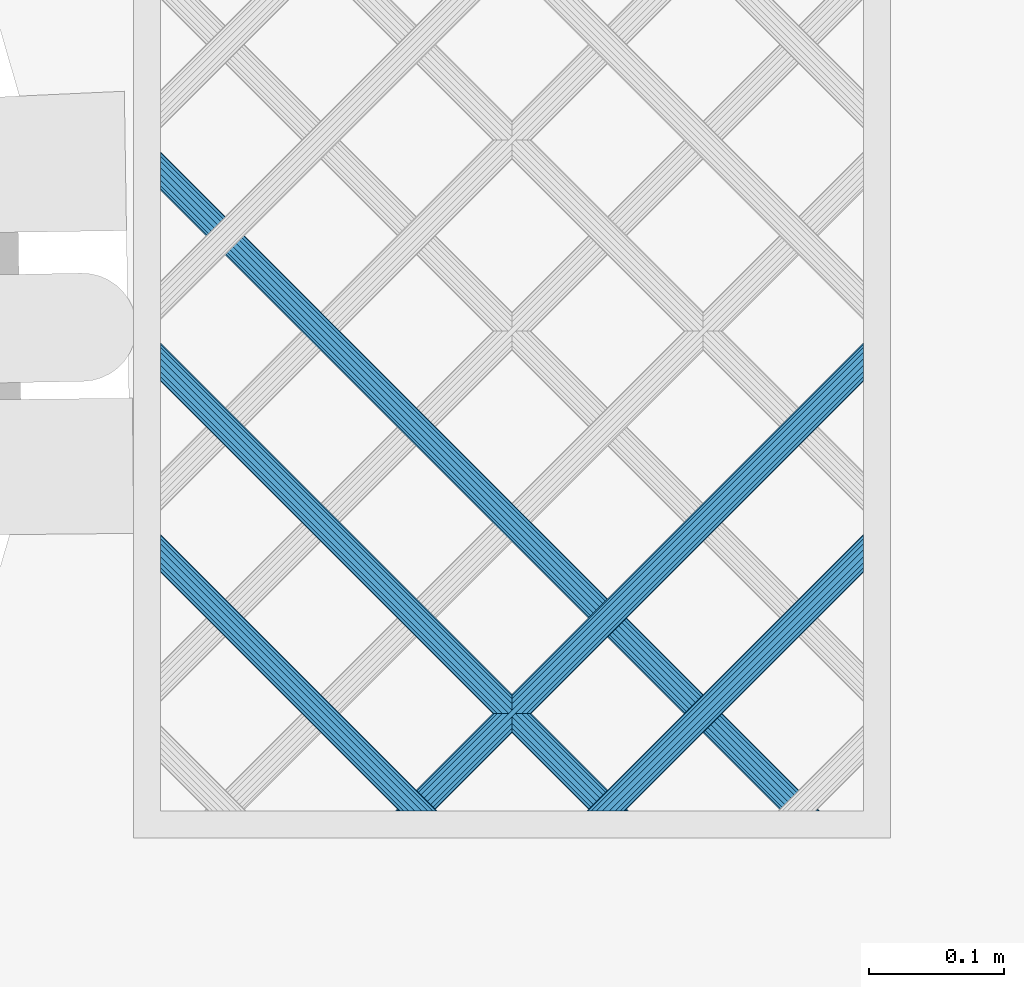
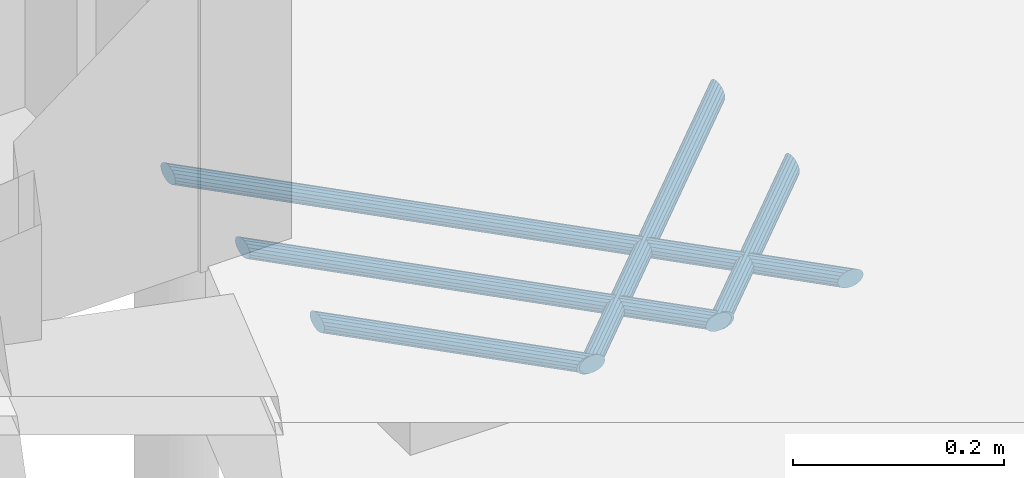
# One storey, part 45 of 133: 5 members, 1 element without a shape of its own.
"""IFC2X3 building model written with IfcOpenShell, lengths in centimetres."""

from ifc_helpers import new_model, entity, si_unit, converted_unit, direction, frame, origin, origin_with_axes, place, context, subcontext, project, spatial, faceted_brep, material, type_object, element, aggregate, save


model = new_model("IFC2X3")

# Units and contexts
model_context = context("Model", 3, precision=0.0001, world=origin(), true_north=direction((0.225632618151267, 0.974212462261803, 0.0)))
body_context = subcontext(model_context, "Body", "Model", "MODEL_VIEW")
ifc_project = project(units=[si_unit("LENGTHUNIT", "METRE", prefix="CENTI"), si_unit("AREAUNIT", "SQUARE_METRE", prefix="CENTI"), si_unit("VOLUMEUNIT", "CUBIC_METRE", prefix="CENTI"), converted_unit("PLANEANGLEUNIT", "DEGREE", entity("IfcRatioMeasure", 0.0174532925), si_unit("PLANEANGLEUNIT", "RADIAN"), dimensions=[0, 0, 0, 0, 0, 0, 0])], contexts=[model_context])

# Site, building, storey
site_placement = place(None, origin_with_axes())
site = spatial("IfcSite", under=ifc_project, at=site_placement, Name="Default Site", CompositionType="ELEMENT")
building_placement = place(site_placement, origin_with_axes())
building = spatial("IfcBuilding", under=site, at=building_placement, Name="Default Building", CompositionType="ELEMENT")
storey_placement = place(building_placement, frame((0.0, 0.0, -291.400371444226), z_axis=(0.0, 0.0, 1.0), x_axis=(1.0, 0.0, 0.0)))
storey = spatial("IfcBuildingStorey", under=building, at=storey_placement, Name="Rez-de-Jardin", CompositionType="ELEMENT", Elevation=-291.400371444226)

# Assembly, members
building_element_proxy_type = type_object("IfcBuildingElementProxyType", Name="Type Object", PredefinedType="NOTDEFINED")
assembly_placement = place(storey_placement, frame((1661.43547545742, -586.48555921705, 97.0), z_axis=(0.0, 1.0, -2.38697950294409e-15), x_axis=(1.0, 0.0, 0.0)))
assembly = element("IfcElementAssembly", 1, at=assembly_placement, inside=storey, type_object=building_element_proxy_type, Name="Panneau 294972", ObjectType="Precast panel", PredefinedType="USERDEFINED")
ifc_material = material(Name="Aluminium satiné")
member_1_placement = place(assembly_placement, frame((54.000002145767, 0.342020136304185, 33.8868021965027), z_axis=(0.999999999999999, 0.0, 0.0), x_axis=(0.0, -0.774594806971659, -0.632457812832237)))
member_1 = element("IfcMember", 2, at=member_1_placement, material=ifc_material, Name="4294966995", context=body_context, shape_type="Brep", body=[
    faceted_brep([(-2.77555756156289e-14, 8.88178419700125e-14, 2.22044604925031e-14), (-0.388290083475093, 8.88178419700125e-14, 2.22044604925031e-14), (-0.799166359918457, -0.150246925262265, 2.22044604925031e-14), (-1.18307325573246, -0.432621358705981, 2.22044604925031e-14), (-1.49370567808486, -0.813064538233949, 2.22044604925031e-14), (-1.69359615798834, -1.24568864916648, 2.22044604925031e-14), (-1.75863665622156, -1.67831484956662, 2.22044604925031e-14), (-1.6809789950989, -2.05875802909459, 2.22044604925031e-14), (-1.46999321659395, -2.34113520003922, 2.22044604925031e-14), (-1.15112495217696, -2.49138464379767, 2.22044604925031e-14), (-0.762836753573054, -2.49138695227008, 2.22044604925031e-14), (-0.351958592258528, -2.34113771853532, 2.22044604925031e-14), (0.0319483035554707, -2.0587632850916, 2.22044604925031e-14), (0.342580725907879, -1.67832010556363, 2.22044604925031e-14), (0.542471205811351, -1.2456959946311, 2.22044604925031e-14), (0.607509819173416, -0.813072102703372, 2.22044604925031e-14), (0.529854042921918, -0.432626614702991, 2.22044604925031e-14), (0.318868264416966, -0.150249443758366, 2.22044604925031e-14), (20.4319842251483, 24.4830381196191, -31.8015173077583), (20.6969112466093, 24.2667248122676, -31.8868055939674), (20.9298841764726, 24.0765020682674, -32.1323812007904), (21.1028030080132, 23.9353135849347, -32.5086236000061), (21.1948112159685, 23.8601887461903, -32.970155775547), (21.1948112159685, 23.8601887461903, -33.4613069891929), (21.1028030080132, 23.9353135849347, -33.9228376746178), (20.9298841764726, 24.0765020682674, -34.2990815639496), (20.6969112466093, 24.2667248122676, -34.5446571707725), (20.4319842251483, 24.4830381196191, -34.6299439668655), (20.1670572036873, 24.6993514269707, -34.5446571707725), (19.934084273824, 24.8895741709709, -34.2990815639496), (19.7611654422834, 25.0307626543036, -33.9228376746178), (19.6691572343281, 25.105887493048, -33.4613069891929), (19.6691572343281, 25.105887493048, -32.970155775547), (19.7611654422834, 25.0307626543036, -32.5086236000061), (19.934084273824, 24.8895741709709, -32.1323812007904), (20.1670572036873, 24.6993514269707, -31.8868055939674), (0.529854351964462, -0.432626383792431, 3.74318515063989e-07), (20.6969128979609, 24.2667260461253, -31.8868035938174), (20.4319855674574, 24.4830391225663, -31.8015156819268), (0.607510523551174, -0.813071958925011, 5.56859209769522e-07), (20.929885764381, 24.076502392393, -32.1323799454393), (20.6969128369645, 24.2667251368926, -31.8868043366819), (0.542470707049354, -1.24569591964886, -2.57365044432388e-07), (21.1028032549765, 23.9353135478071, -32.5086234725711), (20.9298849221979, 24.0765019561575, -32.1323808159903), (0.342580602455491, -1.6783200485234, -3.38953429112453e-08), (21.1948118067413, 23.8601884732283, -32.9701556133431), (21.102803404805, 23.9353134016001, -32.5086234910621), (0.0319483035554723, -2.0587632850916, 2.22044604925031e-14), (-0.351958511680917, -2.34113782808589, -3.38953425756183e-08), (21.1028026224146, 23.9353141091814, -33.9228375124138), (21.1948107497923, 23.8601893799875, -33.4613067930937), (-0.762836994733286, -2.49138629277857, 3.58315049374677e-07), (20.9298836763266, 24.0765034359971, -34.2990808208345), (21.1028025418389, 23.9353148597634, -33.9228369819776), (-1.1511249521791, -2.49138536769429, -5.607278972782e-07), (20.6969112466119, 24.2667257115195, -34.544656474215), (20.9298841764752, 24.0765029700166, -34.2990808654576), (-1.46999305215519, -2.34113485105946, 3.74318516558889e-07), (20.4319847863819, 24.4830393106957, -34.6299426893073), (20.6969119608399, 24.2667263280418, -34.544655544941), (-1.68097930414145, -2.05875826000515, -3.74318473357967e-07), (20.1670582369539, 24.6993521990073, -34.5446559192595), (20.4319849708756, 24.483038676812, -34.6299430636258), (-1.7586359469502, -1.67831470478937, 5.60727943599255e-07), (19.9340858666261, 24.8895744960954, -34.2990803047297), (20.1670587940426, 24.6993517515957, -34.544655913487), (-1.69359685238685, -1.24568854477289, -3.58315005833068e-07), (19.7611660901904, 25.0307625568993, -33.9228373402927), (19.9340850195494, 24.889574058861, -34.2990811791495), (-1.49370555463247, -0.813064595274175, 3.38953879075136e-08), (19.6691580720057, 25.1058871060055, -33.4613067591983), (19.7611661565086, 25.0307623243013, -33.9228374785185), (-1.18307325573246, -0.43262135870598, 2.22044604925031e-14), (-0.79916644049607, -0.15024681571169, 3.38953881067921e-08), (19.761165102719, 25.0307631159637, -32.5086234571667), (19.669156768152, 25.1058881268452, -32.9701555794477), (-0.388290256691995, 4.73689615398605e-07, 2.57365086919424e-07), (19.9340838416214, 24.8895753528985, -32.1323805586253), (19.7611651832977, 25.0307633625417, -32.508623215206), (-2.15738092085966e-12, -7.18902022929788e-07, -5.56859167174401e-07), (20.16705720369, 24.6993523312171, -31.8868048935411), (19.9340842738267, 24.8895750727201, -32.1323805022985), (0.318868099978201, -0.150249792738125, -3.74318469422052e-07), (20.4319847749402, 24.4830392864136, -31.8015160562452), (20.167057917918, 24.6993529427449, -31.8868039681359)], [[[0, 1, 2, 3, 4, 5, 6, 7, 8, 9, 10, 11, 12, 13, 14, 15, 16, 17]], [[18, 19, 20, 21, 22, 23, 24, 25, 26, 27, 28, 29, 30, 31, 32, 33, 34, 35]], [[17, 36, 37, 38]], [[16, 39, 40, 41]], [[15, 42, 43, 44]], [[14, 45, 46, 47]], [[13, 48, 23, 22]], [[12, 49, 50, 51]], [[11, 52, 53, 54]], [[10, 55, 56, 57]], [[9, 58, 59, 60]], [[8, 61, 62, 63]], [[7, 64, 65, 66]], [[6, 67, 68, 69]], [[5, 70, 71, 72]], [[4, 73, 32, 31]], [[3, 74, 75, 76]], [[2, 77, 78, 79]], [[1, 80, 81, 82]], [[0, 83, 84, 85]]]),
])
member_2_placement = place(assembly_placement, frame((54.000002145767, 0.342020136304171, 19.7446674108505), z_axis=(0.999999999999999, 0.0, 0.0), x_axis=(0.0, -0.774596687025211, -0.632455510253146)))
member_2 = element("IfcMember", 3, at=member_2_placement, material=ifc_material, Name="4294966994", context=body_context, shape_type="Brep", body=[
    faceted_brep([(2.77555756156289e-15, 1.38777878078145e-14, -3.33066907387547e-13), (-0.388289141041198, 1.66533453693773e-14, -3.33066907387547e-13), (-0.799165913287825, -0.150249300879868, -3.33066907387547e-13), (-1.18307196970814, -0.432624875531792, -3.33066907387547e-13), (-1.49370326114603, -0.813068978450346, -3.33066907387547e-13), (-1.69359245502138, -1.24569368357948, -3.33066907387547e-13), (-1.75863072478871, -1.67831892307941, -3.33066907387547e-13), (-1.6809728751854, -2.05876302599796, -3.33066907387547e-13), (-1.46998625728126, -2.34113956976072, -3.33066907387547e-13), (-1.15111754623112, -2.49138806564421, -3.33066907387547e-13), (-0.762828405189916, -2.49138806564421, -3.33066907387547e-13), (-0.351951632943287, -2.34113876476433, -3.33066907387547e-13), (0.0319544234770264, -2.0587631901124, -3.33066907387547e-13), (0.342585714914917, -1.67831908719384, -3.33066907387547e-13), (0.542474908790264, -1.24569438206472, -3.33066907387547e-13), (0.6075131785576, -0.813069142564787, -3.33066907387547e-13), (0.529855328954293, -0.432625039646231, -3.33066907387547e-13), (0.318868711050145, -0.150248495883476, -3.33066907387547e-13), (11.487640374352, 13.5286481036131, -17.6593810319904), (11.7525680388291, 13.31233558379, -17.7446693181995), (11.9855415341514, 13.1221135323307, -17.9902434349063), (12.158460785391, 12.9809255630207, -18.3664888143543), (12.2504692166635, 12.9058009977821, -18.8280194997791), (12.2504692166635, 12.9058009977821, -19.319170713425), (12.158460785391, 12.9809255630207, -19.7807013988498), (11.9855415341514, 13.1221135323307, -20.1569467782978), (11.7525680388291, 13.31233558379, -20.4025208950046), (11.487640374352, 13.5286481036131, -20.4878091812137), (11.2227127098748, 13.7449606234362, -20.4025208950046), (10.9897392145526, 13.9351826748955, -20.1569467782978), (10.8168199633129, 14.0763706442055, -19.7807013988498), (10.7248115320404, 14.1514952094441, -19.319170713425), (10.7248115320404, 14.1514952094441, -18.8280194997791), (10.8168199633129, 14.0763706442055, -18.3664888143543), (10.9897392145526, 13.9351826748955, -17.9902434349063), (11.2227127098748, 13.7449606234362, -17.7446693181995), (0.529855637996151, -0.432624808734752, 3.74318159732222e-07), (11.7525690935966, 13.3123363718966, -17.7446680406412), (11.4876411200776, 13.5286486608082, -17.6593801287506), (0.607513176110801, -0.813069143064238, -1.9346982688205e-09), (11.9855417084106, 13.1221135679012, -17.9902432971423), (11.7525689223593, 13.3123357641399, -17.7446686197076), (0.542475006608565, -1.2456943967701, 5.04746481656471e-08), (12.158461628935, 12.9809254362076, -18.3664883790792), (11.9855416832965, 13.1221135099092, -17.9902433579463), (0.342585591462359, -1.67831903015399, -3.38956983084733e-08), (12.2504694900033, 12.9058008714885, -18.8280194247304), (12.1584611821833, 12.9809253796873, -18.3664887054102), (0.0319544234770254, -2.0587631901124, -3.33066907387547e-13), (-0.351951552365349, -2.34113887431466, -3.38956988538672e-08), (12.1584606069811, 12.9809258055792, -19.7807013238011), (12.2504689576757, 12.9058013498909, -19.319170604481), (-0.762828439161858, -2.49138797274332, 5.04746489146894e-08), (11.9855410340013, 13.1221149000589, -20.1569460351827), (12.1584605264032, 12.9809262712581, -19.7807010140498), (-1.15111754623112, -2.49138806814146, -1.93470020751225e-09), (11.7525680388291, 13.3123364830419, -20.402520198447), (11.9855415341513, 13.1221151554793, -20.1569455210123), (-1.46998609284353, -2.34113922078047, 3.74318160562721e-07), (11.487640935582, 13.5286492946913, -20.4878079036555), (11.7525684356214, 13.3123364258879, -20.4025199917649), (-1.68097318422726, -2.05876325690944, -3.74318826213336e-07), (11.2227131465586, 13.7449609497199, -20.4025203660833), (11.4876411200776, 13.5286486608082, -20.487808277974), (-1.75863072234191, -1.67831892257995, 1.93403343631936e-09), (10.9897408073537, 13.9351830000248, -20.1569455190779), (11.222713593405, 13.7449608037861, -20.4025201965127), (-1.69359255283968, -1.24569366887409, -5.04753153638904e-08), (10.8168206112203, 14.0763705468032, -19.7807010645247), (10.9897405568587, 13.9351824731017, -20.1569460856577), (-1.49370313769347, -0.813069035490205, 3.38950325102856e-08), (10.7248120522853, 14.1514949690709, -19.3191705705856), (10.8168203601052, 14.0763704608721, -19.7807012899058), (-1.18307196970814, -0.432624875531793, -3.33066907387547e-13), (-0.799165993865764, -0.150249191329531, 3.3895033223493e-08), (10.8168196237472, 14.0763711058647, -18.3664886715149), (10.7248112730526, 14.1514955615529, -18.828019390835), (-0.388289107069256, -9.2900877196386e-08, -5.04753155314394e-08), (10.9897391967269, 13.9351827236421, -17.9902434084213), (10.8168197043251, 14.0763713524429, -18.3664884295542), (2.74986006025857e-15, 2.49727081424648e-09, 1.9340338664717e-09), (11.2227127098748, 13.7449615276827, -17.7446686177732), (10.9897392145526, 13.9351828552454, -17.990243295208), (0.318868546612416, -0.150248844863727, -3.74318826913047e-07), (11.4876406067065, 13.5286485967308, -17.6593805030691), (11.2227131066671, 13.7449614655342, -17.7446684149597)], [[[0, 1, 2, 3, 4, 5, 6, 7, 8, 9, 10, 11, 12, 13, 14, 15, 16, 17]], [[18, 19, 20, 21, 22, 23, 24, 25, 26, 27, 28, 29, 30, 31, 32, 33, 34, 35]], [[17, 36, 37, 38]], [[16, 39, 40, 41]], [[15, 42, 43, 44]], [[14, 45, 46, 47]], [[13, 48, 23, 22]], [[12, 49, 50, 51]], [[11, 52, 53, 54]], [[10, 55, 56, 57]], [[9, 58, 59, 60]], [[8, 61, 62, 63]], [[7, 64, 65, 66]], [[6, 67, 68, 69]], [[5, 70, 71, 72]], [[4, 73, 32, 31]], [[3, 74, 75, 76]], [[2, 77, 78, 79]], [[1, 80, 81, 82]], [[0, 83, 84, 85]]]),
])
member_3_placement = place(assembly_placement, frame((48.0289369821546, 0.342020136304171, 1.99999995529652), z_axis=(1.16937776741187e-15, 1.43218081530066e-15, -1.0), x_axis=(-0.632457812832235, -0.774594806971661, -1.84894192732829e-15)))
member_3 = element("IfcMember", 4, at=member_3_placement, material=ifc_material, Name="4294966987", context=body_context, shape_type="Brep", body=[
    faceted_brep([(-1.49880108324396e-13, -1.27675647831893e-13, 5.55111512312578e-14), (-0.388290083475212, -1.33226762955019e-13, 5.62290770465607e-14), (-0.799166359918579, -0.150246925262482, 5.69887634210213e-14), (-1.18307514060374, -0.432623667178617, 5.76985884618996e-14), (-1.49370756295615, -0.813066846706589, 5.82729297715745e-14), (-1.69359615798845, -1.2456886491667, 5.86425121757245e-14), (-1.75863854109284, -1.67831715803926, 5.87627717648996e-14), (-1.68097899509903, -2.05875802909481, 5.86191837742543e-14), (-1.46999321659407, -2.34113520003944, 5.82290833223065e-14), (-1.15112495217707, -2.49138464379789, 5.76395144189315e-14), (-0.762838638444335, -2.49138926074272, 5.69215955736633e-14), (-0.35195859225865, -2.34113771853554, 5.6161902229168e-14), (0.0319464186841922, -2.05876559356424, 5.54520841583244e-14), (0.3425788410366, -1.67832241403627, 5.48777428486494e-14), (0.542471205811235, -1.24569599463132, 5.45081534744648e-14), (0.607509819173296, -0.813072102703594, 5.43879008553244e-14), (0.529854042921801, -0.432626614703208, 5.4531481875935e-14), (0.318866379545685, -0.150251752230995, 5.49215858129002e-14), (29.3762878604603, 35.4374622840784, -45.9436517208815), (29.6412148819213, 35.2211489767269, -46.0289370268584), (29.8741878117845, 35.0309262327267, -46.2745141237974), (30.0471066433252, 34.889737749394, -46.6507565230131), (30.1391148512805, 34.8146129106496, -47.1122901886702), (30.1391148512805, 34.8146129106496, -47.6034414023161), (30.0471066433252, 34.889737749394, -48.0649691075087), (29.8741878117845, 35.0309262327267, -48.4412174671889), (29.6412148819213, 35.2211489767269, -48.6867886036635), (29.3762878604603, 35.4374622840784, -48.7720768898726), (29.1113608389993, 35.65377559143, -48.6867886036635), (28.878387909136, 35.8439983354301, -48.4412174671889), (28.7054690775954, 35.9851868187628, -48.0649691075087), (28.6134608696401, 36.0603116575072, -47.6034414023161), (28.6134608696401, 36.0603116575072, -47.1122901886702), (28.7054690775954, 35.9851868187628, -46.6507565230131), (28.878387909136, 35.8439983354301, -46.2745141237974), (29.1113608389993, 35.6537755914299, -46.0289370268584), (0.318866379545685, -0.150251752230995, 5.51642065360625e-14), (0.529853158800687, -0.432627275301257, -1.07086506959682e-06), (29.6412139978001, 35.2211483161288, -46.0289380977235), (0.529854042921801, -0.432626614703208, 5.48172618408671e-14), (0.607510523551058, -0.813071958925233, 5.56859244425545e-07), (29.8741885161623, 35.030926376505, -46.2745135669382), (29.6412148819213, 35.2211489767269, -46.0289370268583), (0.607509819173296, -0.813072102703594, 5.44703171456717e-14), (0.542470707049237, -1.24569591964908, -2.57365012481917e-07), (30.0471061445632, 34.8897378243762, -46.6507567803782), (0.542471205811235, -1.24569599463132, 5.44703171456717e-14), (0.342579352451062, -1.67832265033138, 1.40415158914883e-07), (30.1391153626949, 34.8146126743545, -47.1122900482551), (0.3425788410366, -1.67832241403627, 5.51642065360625e-14), (0.0319464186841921, -2.05876559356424, 5.55111512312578e-14), (30.1391148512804, 34.8146129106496, -47.6034414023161), (30.1391148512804, 34.8146129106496, -47.1122901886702), (0.0319464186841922, -2.05876559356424, 5.55111512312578e-14), (-0.35195809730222, -2.34113839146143, -2.08205779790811e-07), (30.0471071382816, 34.8897370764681, -48.0649693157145), (-0.35195859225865, -2.34113771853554, 5.62050406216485e-14), (-0.762839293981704, -2.49138746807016, 9.73995180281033e-07), (29.8741871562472, 35.0309280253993, -48.4412164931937), (-0.762838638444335, -2.49138926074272, 5.68989300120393e-14), (-1.15112495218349, -2.49138681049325, -1.67831497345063e-06), (29.6412148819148, 35.2211468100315, -48.6867902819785), (-1.15112495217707, -2.49138464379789, 5.79397640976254e-14), (-1.4699930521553, -2.34113485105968, 3.74318551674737e-07), (29.376288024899, 35.4374626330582, -48.7720765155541), (-1.46999321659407, -2.34113520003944, 5.82867087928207e-14), (-1.68097930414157, -2.05875826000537, -3.74318434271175e-07), (29.1113605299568, 35.6537753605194, -48.686788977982), (-1.68097899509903, -2.05875802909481, 5.86336534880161e-14), (-1.75863641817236, -1.6783167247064, 1.67831508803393e-06), (28.8783900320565, 35.843998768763, -48.4412157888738), (29.1113608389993, 35.6537755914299, -48.6867886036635), (-1.75863854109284, -1.67831715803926, 5.89805981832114e-14), (-1.69359804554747, -1.24568836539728, -9.73995064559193e-07), (28.7054671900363, 35.9851871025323, -48.0649700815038), (-1.69359615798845, -1.2456886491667, 5.89805981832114e-14), (-1.49370680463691, -0.813067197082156, 2.08205893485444e-07), (28.6134616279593, 36.0603113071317, -47.6034411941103), (-1.49370756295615, -0.813066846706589, 5.82867087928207e-14), (-1.18307514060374, -0.432623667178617, 5.79397640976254e-14), (28.6134608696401, 36.0603116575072, -47.1122901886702), (-0.799166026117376, -0.150247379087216, -1.40415046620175e-07), (28.7054694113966, 35.9851863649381, -46.6507566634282), (-0.799166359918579, -0.150246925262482, 5.72458747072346e-14), (-0.388290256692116, 4.73689398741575e-07, 2.57365124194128e-07), (28.8783877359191, 35.8439988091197, -46.2745138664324), (-0.388290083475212, -1.33226762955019e-13, 5.65519853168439e-14), (-2.27950546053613e-12, -7.18902242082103e-07, -5.56859135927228e-07), (29.1113608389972, 35.6537748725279, -46.0289375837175), (28.878387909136, 35.8439983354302, -46.2745141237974), (0.318866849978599, -0.150250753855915, 1.07086517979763e-06), (29.3762883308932, 35.4374632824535, -45.9436506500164), (29.1113608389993, 35.65377559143, -46.0289370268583)], [[[0, 1, 2, 3, 4, 5, 6, 7, 8, 9, 10, 11, 12, 13, 14, 15, 16, 17]], [[18, 19, 20, 21, 22, 23, 24, 25, 26, 27, 28, 29, 30, 31, 32, 33, 34, 35]], [[36, 37, 38, 18]], [[39, 40, 41, 42]], [[43, 44, 45, 20]], [[46, 47, 48, 21]], [[49, 50, 51, 52]], [[53, 54, 55, 51]], [[56, 57, 58, 24]], [[59, 60, 61, 25]], [[62, 63, 64, 26]], [[65, 66, 67, 27]], [[68, 69, 70, 71]], [[72, 73, 74, 29]], [[75, 76, 77, 30]], [[78, 79, 80, 31]], [[79, 81, 82, 80]], [[83, 84, 85, 33]], [[86, 87, 88, 89]], [[0, 90, 91, 92]]]),
])
member_4_placement = place(assembly_placement, frame((33.8868021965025, 0.342020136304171, 1.99999995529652), z_axis=(1.16937776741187e-15, 1.43218081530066e-15, -1.0), x_axis=(-0.632457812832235, -0.774594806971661, -1.84894192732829e-15)))
member_4 = element("IfcMember", 5, at=member_4_placement, material=ifc_material, Name="4294966986", context=body_context, shape_type="Brep", body=[
    faceted_brep([(-1.4432899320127e-13, -2.27595720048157e-13, 3.88578058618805e-14), (-0.38829008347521, -2.33146835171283e-13, 3.95757316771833e-14), (-0.799166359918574, -0.150246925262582, 4.0335418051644e-14), (-1.18307325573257, -0.432621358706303, 4.10452396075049e-14), (-1.49370567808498, -0.81306453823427, 4.16195809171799e-14), (-1.69359615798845, -1.2456886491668, 4.19891668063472e-14), (-1.75863665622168, -1.67831484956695, 4.21094229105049e-14), (-1.68097899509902, -2.05875802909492, 4.1965838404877e-14), (-1.46999321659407, -2.34113520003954, 4.15757379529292e-14), (-1.15112495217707, -2.49138464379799, 4.09861690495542e-14), (-0.762836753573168, -2.49138695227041, 4.02682467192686e-14), (-0.351958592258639, -2.34113771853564, 3.95085568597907e-14), (0.0319483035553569, -2.05876328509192, 3.87987353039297e-14), (0.342580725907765, -1.67832010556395, 3.82243939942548e-14), (0.542471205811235, -1.24569599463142, 3.78548081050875e-14), (0.607509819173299, -0.813072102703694, 3.77345554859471e-14), (0.529854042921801, -0.432626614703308, 3.78781365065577e-14), (0.318868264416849, -0.150249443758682, 3.82682369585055e-14), (20.4319842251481, 24.4830381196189, -31.8015139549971), (20.696911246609, 24.2667248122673, -31.8868022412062), (20.9298841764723, 24.0765020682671, -32.1323793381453), (21.102803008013, 23.9353135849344, -32.508621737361), (21.1948112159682, 23.86018874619, -32.9701524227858), (21.1948112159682, 23.86018874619, -33.4613036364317), (21.102803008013, 23.9353135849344, -33.9228343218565), (20.9298841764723, 24.0765020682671, -34.2990797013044), (20.696911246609, 24.2667248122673, -34.5446538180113), (20.4319842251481, 24.4830381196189, -34.6299421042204), (20.1670572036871, 24.6993514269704, -34.5446538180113), (19.9340842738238, 24.8895741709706, -34.2990797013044), (19.7611654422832, 25.0307626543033, -33.9228343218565), (19.6691572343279, 25.1058874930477, -33.4613036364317), (19.6691572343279, 25.1058874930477, -32.9701524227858), (19.7611654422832, 25.0307626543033, -32.508621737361), (19.9340842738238, 24.8895741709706, -32.1323793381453), (20.1670572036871, 24.6993514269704, -31.8868022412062), (0.318868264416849, -0.150249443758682, 3.85108611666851e-14), (0.529854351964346, -0.432626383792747, 3.74318531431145e-07), (20.6969115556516, 24.2667250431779, -31.8868018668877), (0.529854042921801, -0.432626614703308, 3.81639164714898e-14), (0.607510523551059, -0.813071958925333, 5.56859226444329e-07), (20.9298848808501, 24.0765022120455, -32.1323787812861), (0.607509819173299, -0.813072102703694, 3.78169717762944e-14), (0.542470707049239, -1.24569591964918, -2.5736502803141e-07), (21.102802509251, 23.9353136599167, -32.508621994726), (0.542471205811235, -1.24569599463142, 3.78169717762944e-14), (0.342580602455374, -1.67832004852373, -3.38953274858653e-08), (21.1948110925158, 23.8601888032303, -32.9701524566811), (0.342580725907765, -1.67832010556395, 3.85108611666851e-14), (0.0319483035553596, -2.05876328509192, 3.92047505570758e-14), (0.0319483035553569, -2.05876328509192, 3.92047505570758e-14), (-0.351958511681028, -2.34113782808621, -3.38953252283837e-08), (21.1028030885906, 23.9353134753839, -33.9228343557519), (-0.351958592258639, -2.34113771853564, 3.95516952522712e-14), (-0.762836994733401, -2.49138629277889, 3.58315068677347e-07), (20.9298839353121, 24.0765027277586, -34.2990793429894), (-0.762836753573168, -2.49138695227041, 4.02455846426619e-14), (-1.15112495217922, -2.49138536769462, -5.60727878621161e-07), (20.6969112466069, 24.2667240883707, -34.5446543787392), (-1.15112495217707, -2.49138464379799, 4.1286418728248e-14), (-1.4699930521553, -2.34113485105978, 3.74318532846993e-07), (20.4319843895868, 24.4830384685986, -34.6299417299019), (-1.46999321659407, -2.34113520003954, 4.16333634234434e-14), (-1.68097930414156, -2.05875826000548, -3.7431845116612e-07), (20.1670568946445, 24.6993511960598, -34.5446541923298), (-1.68097899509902, -2.05875802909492, 4.19803081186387e-14), (-1.75863594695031, -1.6783147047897, 5.60727963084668e-07), (19.9340849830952, 24.8895743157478, -34.2990791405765), (-1.75863665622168, -1.67831484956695, 4.23272528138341e-14), (-1.69359685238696, -1.24568854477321, -3.5831498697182e-07), (19.7611647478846, 25.0307627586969, -33.9228346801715), (-1.69359615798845, -1.2456886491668, 4.23272528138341e-14), (-1.49370555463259, -0.813064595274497, 3.38954079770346e-08), (19.6691573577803, 25.1058874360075, -33.4613036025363), (-1.49370567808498, -0.81306453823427, 4.19803081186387e-14), (-1.18307325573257, -0.432621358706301, 4.1286418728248e-14), (-1.18307325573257, -0.432621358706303, 4.1286418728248e-14), (-0.799166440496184, -0.15024681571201, 3.38954053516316e-08), (19.7611653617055, 25.0307627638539, -32.5086217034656), (-0.799166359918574, -0.150246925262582, 4.05925293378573e-14), (-0.388290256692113, 4.73689298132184e-07, 2.57365107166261e-07), (19.9340841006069, 24.8895746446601, -32.1323790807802), (-0.38829008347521, -2.33146835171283e-13, 3.98986399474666e-14), (-2.27395434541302e-12, -7.1890234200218e-07, -5.56859152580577e-07), (20.167057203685, 24.6993507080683, -31.8868027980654), (0.318868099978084, -0.150249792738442, -3.74318452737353e-07), (20.4319840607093, 24.4830377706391, -31.8015143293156)], [[[0, 1, 2, 3, 4, 5, 6, 7, 8, 9, 10, 11, 12, 13, 14, 15, 16, 17]], [[18, 19, 20, 21, 22, 23, 24, 25, 26, 27, 28, 29, 30, 31, 32, 33, 34, 35]], [[36, 37, 38, 18]], [[39, 40, 41, 19]], [[42, 43, 44, 20]], [[45, 46, 47, 21]], [[48, 49, 23, 22]], [[50, 51, 52, 23]], [[53, 54, 55, 24]], [[56, 57, 58, 25]], [[59, 60, 61, 26]], [[62, 63, 64, 27]], [[65, 66, 67, 28]], [[68, 69, 70, 29]], [[71, 72, 73, 30]], [[74, 75, 32, 31]], [[76, 77, 78, 32]], [[79, 80, 81, 33]], [[82, 83, 84, 34]], [[0, 85, 86, 35]]]),
])
member_5_placement = place(assembly_placement, frame((19.7446674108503, 0.342020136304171, 1.99999995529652), z_axis=(1.16937634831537e-15, 1.43218776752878e-15, -1.0), x_axis=(-0.632455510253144, -0.774596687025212, -1.84894641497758e-15)))
member_5 = element("IfcMember", 6, at=member_5_placement, material=ifc_material, Name="4294966985", context=body_context, shape_type="Brep", body=[
    faceted_brep([(8.04911692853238e-14, -1.0547118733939e-13, 2.25514051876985e-14), (-0.388289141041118, -1.0547118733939e-13, 2.32693310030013e-14), (-0.799165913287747, -0.150249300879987, 2.40290201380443e-14), (-1.18307196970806, -0.432624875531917, 2.47388418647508e-14), (-1.49370326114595, -0.813068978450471, 2.53131824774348e-14), (-1.6935924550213, -1.2456936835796, 2.56827668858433e-14), (-1.75863072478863, -1.67831892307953, 2.5803019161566e-14), (-1.68097287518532, -2.05876302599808, 2.56594339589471e-14), (-1.46998625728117, -2.34113956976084, 2.5269331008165e-14), (-1.15111754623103, -2.49138806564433, 2.46797598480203e-14), (-0.76282840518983, -2.49138806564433, 2.39618340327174e-14), (-0.351951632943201, -2.34113876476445, 2.32021448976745e-14), (0.0319544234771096, -2.05876319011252, 2.2492323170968e-14), (0.342585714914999, -1.67831908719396, 2.1917982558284e-14), (0.542474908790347, -1.24569438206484, 2.15483981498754e-14), (0.607513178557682, -0.813069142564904, 2.14281458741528e-14), (0.529855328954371, -0.43262503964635, 2.15717310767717e-14), (0.318868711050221, -0.150248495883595, 2.19618340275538e-14), (11.487640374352, 13.528648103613, -17.6593791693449), (11.7525680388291, 13.3123355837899, -17.744667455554), (11.9855415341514, 13.1221135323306, -17.990243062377), (12.158460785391, 12.9809255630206, -18.3664869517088), (12.2504692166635, 12.905800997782, -18.8280176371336), (12.2504692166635, 12.905800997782, -19.3191688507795), (12.158460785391, 12.9809255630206, -19.7806995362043), (11.9855415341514, 13.1221135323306, -20.1569434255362), (11.7525680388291, 13.3123355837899, -20.4025190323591), (11.487640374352, 13.528648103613, -20.4878073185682), (11.2227127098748, 13.7449606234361, -20.4025190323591), (10.9897392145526, 13.9351826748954, -20.1569434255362), (10.8168199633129, 14.0763706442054, -19.7806995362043), (10.7248115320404, 14.151495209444, -19.3191688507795), (10.7248115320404, 14.151495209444, -18.8280176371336), (10.8168199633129, 14.0763706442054, -18.3664869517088), (10.9897392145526, 13.9351826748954, -17.990243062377), (11.2227127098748, 13.7449606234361, -17.744667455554), (0.318868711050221, -0.150248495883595, 2.18575157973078e-14), (0.529855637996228, -0.432624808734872, 3.74318514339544e-07), (11.752568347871, 13.3123358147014, -17.7446670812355), (0.529855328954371, -0.43262503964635, 2.18575157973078e-14), (0.60751317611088, -0.813069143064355, -1.93434563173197e-09), (11.9855415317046, 13.1221135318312, -17.9902430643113), (0.607513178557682, -0.813069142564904, 2.1163626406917e-14), (0.542475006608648, -1.24569439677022, 5.04750023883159e-08), (12.1584608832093, 12.9809255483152, -18.3664869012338), (0.542474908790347, -1.24569438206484, 2.15105711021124e-14), (0.342585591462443, -1.67831903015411, -3.3895342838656e-08), (12.2504690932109, 12.9058010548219, -18.828017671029), (0.342585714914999, -1.67831908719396, 2.18575157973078e-14), (0.0319544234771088, -2.05876319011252, 2.25514051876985e-14), (0.0319544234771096, -2.05876319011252, 2.25514051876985e-14), (-0.351951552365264, -2.34113887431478, -3.3895342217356e-08), (12.1584608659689, 12.9809254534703, -19.7806995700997), (-0.351951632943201, -2.34113876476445, 2.28983498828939e-14), (-0.762828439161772, -2.49138797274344, 5.04750046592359e-08), (11.9855415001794, 13.1221136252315, -20.1569433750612), (-0.76282840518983, -2.49138806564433, 2.39391839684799e-14), (-1.15111754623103, -2.49138806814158, -1.93434131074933e-09), (11.7525680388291, 13.3123355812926, -20.4025190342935), (-1.15111754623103, -2.49138806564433, 2.4980018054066e-14), (-1.46998609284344, -2.34113922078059, 3.74318517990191e-07), (11.4876405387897, 13.5286484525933, -20.4878069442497), (-1.46998625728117, -2.34113956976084, 2.53269627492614e-14), (-1.68097318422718, -2.05876325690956, -3.74318467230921e-07), (11.222712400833, 13.7449603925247, -20.4025194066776), (-1.68097287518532, -2.05876302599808, 2.56739074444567e-14), (-1.75863072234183, -1.67831892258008, 1.93439082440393e-09), (10.9897392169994, 13.9351826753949, -20.1569434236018), (-1.75863072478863, -1.67831892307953, 2.60208521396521e-14), (-1.69359255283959, -1.24569366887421, -5.04749547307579e-08), (10.8168198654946, 14.0763706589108, -19.7806995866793), (-1.6935924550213, -1.2456936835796, 2.56739074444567e-14), (-1.49370313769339, -0.81306903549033, 3.38953909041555e-08), (10.724811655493, 14.1514951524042, -19.3191688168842), (-1.49370326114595, -0.813068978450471, 2.53269627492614e-14), (-1.18307196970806, -0.432624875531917, 2.46330733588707e-14), (-0.799165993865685, -0.150249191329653, 3.38953897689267e-08), (10.816819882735, 14.0763707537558, -18.3664869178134), (-0.799165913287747, -0.150249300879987, 2.42861286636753e-14), (-0.388289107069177, -9.2900995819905e-08, -5.04749573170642e-08), (10.9897392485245, 13.9351825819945, -17.990243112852), (-0.388289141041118, -1.0547118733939e-13, 2.32452945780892e-14), (8.04654717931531e-14, 2.49715032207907e-09, 1.93438859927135e-09), (11.2227127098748, 13.7449606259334, -17.7446674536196), (0.318868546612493, -0.150248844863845, -3.74318471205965e-07), (11.4876402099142, 13.5286477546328, -17.6593795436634)], [[[0, 1, 2, 3, 4, 5, 6, 7, 8, 9, 10, 11, 12, 13, 14, 15, 16, 17]], [[18, 19, 20, 21, 22, 23, 24, 25, 26, 27, 28, 29, 30, 31, 32, 33, 34, 35]], [[36, 37, 38, 18]], [[39, 40, 41, 19]], [[42, 43, 44, 20]], [[45, 46, 47, 21]], [[48, 49, 23, 22]], [[50, 51, 52, 23]], [[53, 54, 55, 24]], [[56, 57, 58, 25]], [[59, 60, 61, 26]], [[62, 63, 64, 27]], [[65, 66, 67, 28]], [[68, 69, 70, 29]], [[71, 72, 73, 30]], [[74, 75, 32, 31]], [[75, 76, 77, 32]], [[78, 79, 80, 33]], [[81, 82, 83, 34]], [[0, 84, 85, 35]]]),
])
aggregate(assembly, [member_1, member_2, member_3, member_4, member_5])

save(model, "model.ifc")
